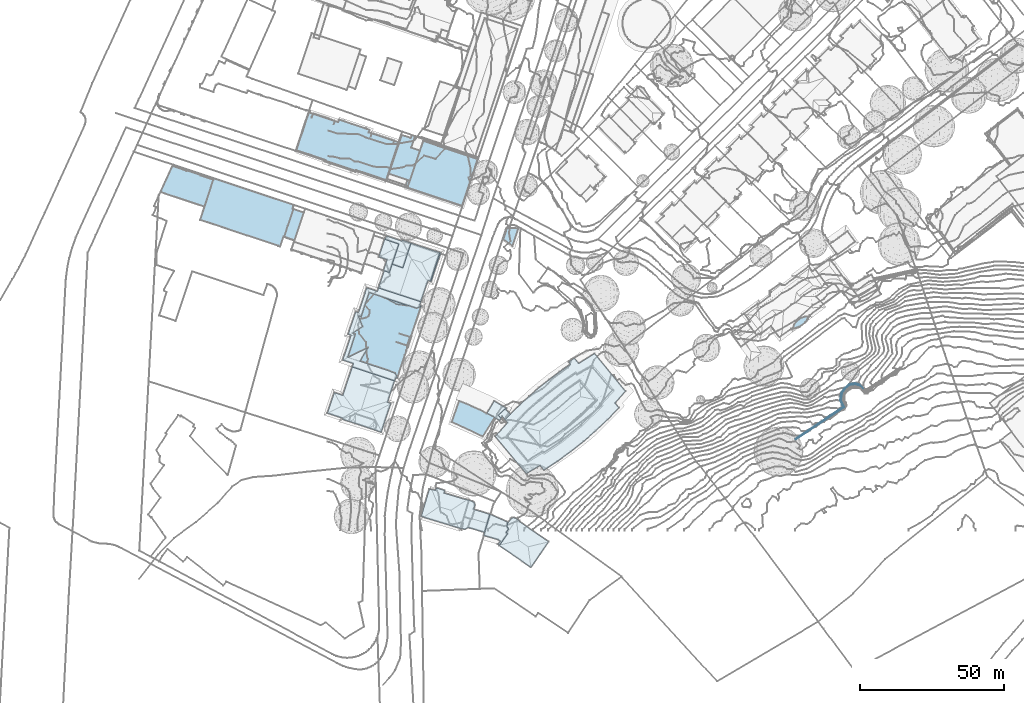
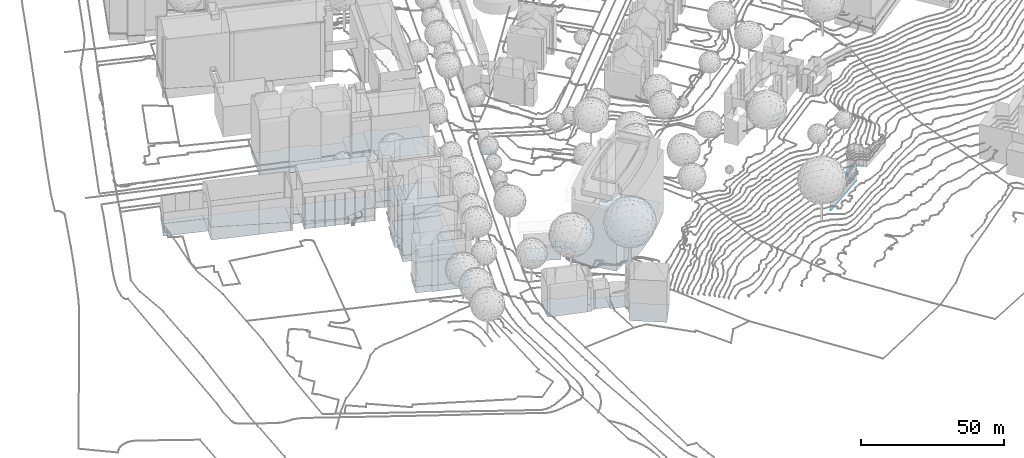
# Not in any storey, part 1 of 477: 12 footings.
"""IFC4 building model written with IfcOpenShell, lengths in metres."""

from ifc_helpers import new_model, si_unit, frame, origin_with_axes, place, context, subcontext, project, spatial, polygons, element, save


model = new_model("IFC4")

# Units and contexts
model_context = context("Model", 3, precision=1e-05, world=origin_with_axes())
body_context = subcontext(model_context, "Body", "Model", "MODEL_VIEW")
ifc_project = project(units=[si_unit("AREAUNIT", "SQUARE_METRE"), si_unit("LENGTHUNIT", "METRE")], contexts=[model_context])

# Sites, building
site_1_placement = place(None, origin_with_axes())
site_1 = spatial("IfcSite", under=ifc_project, at=site_1_placement, Name="Topoexport Site")
site_2_placement = place(site_1_placement, origin_with_axes())
site_2 = spatial("IfcSite", under=site_1, at=site_2_placement, Name="TPX_BUILDINGS")
building_1_placement = place(site_2_placement, frame((211.8297320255, 101.9383160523, 526.7541), z_axis=(0.0, 0.0, 1.0), x_axis=(1.0, 0.0, 0.0)))
building_1 = spatial("IfcBuilding", under=site_2, at=building_1_placement, Name="Building 18", CompositionType="ELEMENT")

# Footing
footing_1_placement = place(None, frame((211.8297320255, 101.9383160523, 526.7541), z_axis=(0.0, 0.0, 1.0), x_axis=(1.0, 0.0, 0.0)))
element("IfcFooting", 1, at=footing_1_placement, inside=building_1, Name="Floor 20", context=body_context, shape_type="Tessellation", body=[
    polygons([(-34.5759999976, -56.5976999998, -17.0633), (-33.9159999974, -55.2714999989, -17.0633), (-34.2349999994, -56.6416000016, -17.0633), (-34.2729999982, -58.0879000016, -17.0633), (-33.7829999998, -59.1513999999, -17.0634), (-34.0889999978, -59.3066999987, -17.0634), (-34.6169999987, -58.1572000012, -17.0633), (-50.118999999, -71.6132999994, -17.0633), (-50.3090000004, -71.3280999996, -17.0633), (-33.6050000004, -60.182599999, -17.0634), (-34.2329999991, -55.125, -17.0633), (-31.5610000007, -52.3574000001, -17.0633), (-31.4149999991, -52.6816999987, -17.0633), (-33.1439999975, -53.6620999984, -17.0633), (-32.8939999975, -53.9004000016, -17.0633), (-29.6919999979, -52.4120999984, -17.0633), (-33.1519999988, -60.2930000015, -17.0634), (-29.6769999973, -52.0634999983, -17.0633), (-27.7089999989, -52.5527999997, -17.0633), (-26.6359999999, -53.8544999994, -17.0634), (-27.8649999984, -52.8671999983, -17.0633)], [[[1, 2, 3]], [[4, 1, 3]], [[4, 5, 6]], [[4, 7, 1]], [[8, 9, 10]], [[7, 4, 6]], [[1, 11, 2]], [[12, 13, 14]], [[13, 15, 14]], [[13, 12, 16]], [[17, 10, 5]], [[17, 8, 10]], [[14, 15, 2]], [[10, 6, 5]], [[2, 11, 14]], [[18, 16, 12]], [[18, 19, 16]], [[19, 20, 21]], [[21, 16, 19]]]),
])

# Building
building_2_placement = place(site_2_placement, frame((160.7467320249, 68.8533160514, 524.6524), z_axis=(0.0, 0.0, 1.0), x_axis=(1.0, 0.0, 0.0)))
building_2 = spatial("IfcBuilding", under=site_2, at=building_2_placement, Name="Building 63", CompositionType="ELEMENT")

# Footing
footing_2_placement = place(None, frame((160.7467320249, 68.8533160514, 524.6524), z_axis=(0.0, 0.0, 1.0), x_axis=(1.0, 0.0, 0.0)))
element("IfcFooting", 2, at=footing_2_placement, inside=building_2, Name="Floor 0", context=body_context, shape_type="Tessellation", body=[
    polygons([(0.4470000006, 1.3037, 0.0), (1.9539999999, 0.4356000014, 0.0), (1.4880000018, 0.2734999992, 0.0), (2.2640000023, 0.572300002, 0.0), (1.2660000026, 0.2168000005, 0.0), (3.3210000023, 1.3672000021, 0.0), (1.1090000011, 2.3280999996, 0.0), (1.9740000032, 3.1563000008, 0.0), (0.0150000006, 0.1231000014, 0.0), (0.0340000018, 0.0234999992, 0.0), (0.0, 0.0, 0.0), (0.5250000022, 0.067400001, 0.0), (1.0109999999, 0.1504000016, 0.0), (3.0090000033, 3.7588, 0.0), (4.1750000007, 4.1114000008, 0.0), (4.9690000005, 3.0342000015, 0.0), (5.4050000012, 3.9717000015, 0.0), (5.2080000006, 3.4942000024, 0.0), (5.6660000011, 4.1621000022, 0.0), (5.4290000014, 4.2012000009, 0.0), (4.2740000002, 2.0780999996, 0.0), (4.694000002, 2.6006000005, 0.0), (4.382000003, 2.1905000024, 0.0)], [[[1, 2, 3]], [[4, 2, 1]], [[3, 5, 1]], [[6, 1, 7]], [[7, 8, 6]], [[9, 10, 11]], [[9, 1, 12]], [[9, 12, 10]], [[12, 1, 13]], [[5, 13, 1]], [[14, 15, 16]], [[15, 17, 18]], [[15, 18, 16]], [[19, 17, 20]], [[17, 15, 20]], [[6, 4, 1]], [[21, 6, 8]], [[22, 14, 16]], [[23, 21, 8]], [[8, 22, 23]], [[8, 14, 22]]]),
])

# Building
building_3_placement = place(site_2_placement, frame((60.2177320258, 99.807416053, 527.0553), z_axis=(0.0, 0.0, 1.0), x_axis=(1.0, 0.0, 0.0)))
building_3 = spatial("IfcBuilding", under=site_2, at=building_3_placement, Name="Building 132", CompositionType="ELEMENT")

# Footing
footing_3_placement = place(None, frame((60.2177320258, 99.807416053, 527.0553), z_axis=(0.0, 0.0, 1.0), x_axis=(1.0, 0.0, 0.0)))
element("IfcFooting", 3, at=footing_3_placement, inside=building_3, Name="Floor 0", context=body_context, shape_type="Tessellation", body=[
    polygons([(1.3100000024, 3.8682000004, 0.0), (3.2190000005, -2.3368999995, 0.0), (0.0, 0.0, 0.0), (5.2420000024, 3.8145000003, 0.0)], [[[1, 2, 3]], [[2, 1, 4]]]),
])

# Building
building_4_placement = place(site_2_placement, frame((54.4957320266, 39.4383160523, 525.2974), z_axis=(0.0, 0.0, 1.0), x_axis=(1.0, 0.0, 0.0)))
building_4 = spatial("IfcBuilding", under=site_2, at=building_4_placement, Name="Building 133", CompositionType="ELEMENT")

# Footing
footing_4_placement = place(None, frame((54.4957320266, 39.4383160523, 525.2974), z_axis=(0.0, 0.0, 1.0), x_axis=(1.0, 0.0, 0.0)))
element("IfcFooting", 4, at=footing_4_placement, inside=building_4, Name="Floor 0", context=body_context, shape_type="Tessellation", body=[
    polygons([(28.4890000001, 17.9638999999, -1.7479), (30.4200000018, 19.2245999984, -1.7479), (28.9499999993, 17.0243999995, -1.7479), (31.9250000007, 17.3418000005, -1.7479), (25.2219999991, 14.4345999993, -1.7479), (21.5870000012, 11.7157999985, -1.7479), (18.0500000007, 8.870099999, -1.7479), (7.2030000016, -3.2236000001, -1.7479), (11.3590000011, 2.8935000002, -1.7479), (14.6530000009, 5.9393999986, -1.7479), (6.2659999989, -2.1416000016, -1.7479), (8.1710000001, -0.2637000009, -1.7479), (44.5139999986, 3.6162, -1.7479), (48.1380000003, 7.754900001, -1.7479), (18.4660000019, -18.0859999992, -1.7479), (37.8350000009, -6.0117000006, -1.7479), (41.936999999, -2.1044999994, -1.7479), (45.8619999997, 1.9803999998, -1.7479), (33.5639999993, -9.7324000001, -1.7479), (13.7049999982, -20.9189999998, -1.7479), (2.9010000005, -7.9785000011, -1.7479), (24.5500000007, -16.5898999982, -1.7479), (29.1330000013, -13.2608000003, -1.7479), (19.824000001, -19.7129000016, -1.7479), (37.3819999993, 20.8027000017, -1.7479), (3.993999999, -0.6651000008, 0.0), (2.0130000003, -1.0263999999, 0.0), (2.5009999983, 4.2705000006, 0.0), (6.5139999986, 1.754900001, 0.0), (0.0, 0.0, 0.0), (3.1609999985, -1.7362999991, 0.0), (4.9389999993, -1.6484999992, 0.0), (6.8920000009, 1.7558000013, 0.0), (6.7509999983, 1.5088, 0.0), (4.4609999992, -2.4765999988, 0.0), (8.1710000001, -0.2637000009, -0.386), (5.2989999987, -1.0254000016, -0.386), (6.6140000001, 1.2694999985, -0.386), (6.7509999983, 1.5088, -0.386), (6.5139999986, 1.754900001, -0.386), (3.993999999, -0.6651000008, -0.386), (4.9389999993, -1.6484999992, -0.386), (6.2659999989, -2.1416000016, -0.386)], [[[1, 2, 3]], [[3, 4, 5]], [[3, 2, 4]], [[4, 6, 5]], [[4, 7, 6]], [[8, 9, 10]], [[10, 7, 8]], [[8, 11, 12]], [[12, 9, 8]], [[4, 8, 7]], [[13, 8, 4]], [[13, 4, 14]], [[13, 15, 8]], [[16, 13, 17]], [[13, 18, 17]], [[13, 16, 19]], [[20, 21, 8]], [[20, 8, 15]], [[22, 15, 23]], [[15, 22, 24]], [[19, 23, 15]], [[19, 15, 13]], [[4, 25, 14]], [[26, 27, 28]], [[28, 29, 26]], [[30, 28, 27]], [[27, 26, 31]], [[32, 31, 26]], [[33, 34, 29]], [[29, 28, 33]], [[35, 31, 32]], [[36, 37, 38]], [[39, 38, 40]], [[41, 40, 38]], [[41, 38, 37]], [[37, 42, 41]], [[37, 36, 43]]]),
])

# Building
building_5_placement = place(site_2_placement, frame((42.3237320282, 36.3992160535, 526.0533), z_axis=(0.0, 0.0, 1.0), x_axis=(1.0, 0.0, 0.0)))
building_5 = spatial("IfcBuilding", under=site_2, at=building_5_placement, Name="Building 134", CompositionType="ELEMENT")

# Footing
footing_5_placement = place(None, frame((42.3237320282, 36.3992160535, 526.0533), z_axis=(0.0, 0.0, 1.0), x_axis=(1.0, 0.0, 0.0)))
element("IfcFooting", 5, at=footing_5_placement, inside=building_5, Name="Floor 0", context=body_context, shape_type="Tessellation", body=[
    polygons([(14.1849999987, 2.0126999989, 0.0), (14.868999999, 1.566399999, 0.0), (10.7749999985, -5.0215000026, 0.0), (12.1569999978, 3.0136999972, 0.0), (12.1719999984, 3.0390999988, 0.0), (15.3329999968, 1.3027999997, 0.0), (0.0, 0.0, 0.0), (2.5649999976, 7.2802999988, 0.0), (4.9599999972, 6.3349999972, 0.0), (7.3279999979, 5.3222999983, 0.0), (9.6669999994, 4.2460999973, 0.0)], [[[1, 2, 3]], [[1, 4, 5]], [[1, 6, 2]], [[3, 4, 1]], [[7, 8, 9]], [[9, 10, 7]], [[4, 3, 11]], [[7, 10, 11]], [[3, 7, 11]]]),
])

# Building
building_6_placement = place(site_2_placement, frame((53.3647320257, -2.937683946, 525.6963), z_axis=(0.0, 0.0, 1.0), x_axis=(1.0, 0.0, 0.0)))
building_6 = spatial("IfcBuilding", under=site_2, at=building_6_placement, Name="Building 136", CompositionType="ELEMENT")

# Footing
footing_6_placement = place(None, frame((53.3647320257, -2.937683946, 525.6963), z_axis=(0.0, 0.0, 1.0), x_axis=(1.0, 0.0, 0.0)))
element("IfcFooting", 6, at=footing_6_placement, inside=building_6, Name="Floor 0", context=body_context, shape_type="Tessellation", body=[
    polygons([(12.4990000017, 4.7714999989, -4.7716), (9.5360000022, 5.8642999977, -4.7716), (9.7149999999, 5.9960999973, -4.7716), (9.4730000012, 5.7997999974, -4.7716), (10.0179999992, 6.1356999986, -4.7716), (10.3500000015, 6.1963, -4.7716), (10.6900000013, 6.1728999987, -4.7716), (11.4800000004, 5.7577999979, -4.7716), (9.3819999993, 5.7040999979, -4.7716), (8.5769999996, 4.5449000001, -4.7716), (8.3949999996, 4.4287, -4.7716), (8.4959999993, 4.5810999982, -4.7716), (8.2440000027, 4.1981999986, -4.7716), (8.6270000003, 2.25, -4.7716), (8.5040000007, 2.4384999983, -4.7716), (8.1359999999, 2.9970999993, -4.7716), (11.2070000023, 5.9481999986, -4.7716), (11.012000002, 6.0644999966, -4.7716), (22.5720000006, -2.1904000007, -4.7716), (12.4780000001, 5.056599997, -4.7716), (12.0179999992, 5.3798999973, -4.7716), (19.6229999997, -6.4560000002, -4.7716), (7.7939999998, 1.0429999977, -4.7716), (8.3370000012, 0.6679999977, -4.7716), (13.6520000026, -9.1904000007, -4.7716), (5.4450000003, -3.5175999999, -4.7716), (16.4140000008, -11.0986000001, -4.7716), (8.2440000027, 4.1981999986, 0.0), (8.1359999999, 2.9970999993, 0.0), (5.0030000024, -1.4550999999, 0.0), (7.7939999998, 1.0429999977, 0.0), (8.5020000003, 2.441399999, 0.0), (8.6270000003, 2.25, 0.0), (2.370000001, 7.3007999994, 0.0), (2.7380000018, 7.1503999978, 0.0), (1.2569999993, 4.2509999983, 0.0), (8.3949999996, 4.4287, 0.0), (8.4959999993, 4.5810999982, 0.0), (2.1850000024, 7.3710999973, 0.0), (8.3370000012, 0.6679999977, 0.0), (5.7430000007, -1.9736000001, 0.0), (5.626000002, -3.255900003, 0.0), (0.313000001, 1.0497999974, 0.0), (0.1449999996, -0.0439000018, 0.0), (4.9790000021, -3.063500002, 0.0), (0.0, 0.0, 0.0)], [[[1, 2, 3]], [[1, 4, 2]], [[3, 5, 1]], [[6, 7, 8]], [[1, 5, 6]], [[4, 1, 9]], [[10, 11, 12]], [[11, 10, 13]], [[14, 15, 13]], [[10, 9, 1]], [[16, 13, 15]], [[10, 14, 13]], [[17, 7, 18]], [[19, 10, 1]], [[8, 1, 6]], [[17, 8, 7]], [[20, 1, 21]], [[14, 10, 19]], [[1, 8, 21]], [[14, 19, 22]], [[23, 14, 24]], [[25, 26, 24]], [[24, 22, 25]], [[22, 27, 25]], [[24, 14, 22]], [[28, 29, 30]], [[31, 29, 32]], [[31, 32, 33]], [[34, 35, 36]], [[37, 28, 35]], [[35, 38, 37]], [[28, 30, 35]], [[34, 36, 39]], [[30, 29, 31]], [[40, 41, 31]], [[40, 42, 41]], [[30, 43, 36]], [[30, 36, 35]], [[30, 44, 43]], [[41, 42, 45]], [[46, 43, 44]], [[41, 30, 31]]]),
])

# Building
building_7_placement = place(site_2_placement, frame((31.7207320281, 3.7234160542, 525.7003), z_axis=(0.0, 0.0, 1.0), x_axis=(1.0, 0.0, 0.0)))
building_7 = spatial("IfcBuilding", under=site_2, at=building_7_placement, Name="Building 137", CompositionType="ELEMENT")

# Footing
footing_7_placement = place(None, frame((31.7207320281, 3.7234160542, 525.7003), z_axis=(0.0, 0.0, 1.0), x_axis=(1.0, 0.0, 0.0)))
element("IfcFooting", 7, at=footing_7_placement, inside=building_7, Name="Floor 0", context=body_context, shape_type="Tessellation", body=[
    polygons([(3.8589999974, 9.3095999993, 0.0), (4.8939999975, 8.9941999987, 0.0), (3.818, 9.1747999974, 0.0), (0.0, 0.0, 0.0), (3.6419999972, 9.2285999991, 0.0), (2.8209999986, 9.4785999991, 0.0), (7.943, 8.0527999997, 0.0), (8.2159999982, 8.9550999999, 0.0), (5.1600000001, 9.8642999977, 0.0), (0.8969999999, -0.2744000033, 0.0), (15.1849999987, 5.8632999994, 0.0), (12.8990000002, -4.0312000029, 0.0), (0.867999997, -0.371100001, 0.0), (18.1999999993, 2.3964999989, 0.0), (13.7099999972, -4.1484000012, 0.0), (13.6739999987, -4.2675000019, 0.0), (15.0709999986, -4.5537, 0.0), (16.3029999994, -3.9492000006, 0.0), (16.5989999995, 5.5585999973, 0.0), (18.0319999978, 5.0673999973, 0.0), (18.2829999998, 4.8544999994, 0.0), (17.7369999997, 5.2109999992, 0.0), (18.6209999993, 4.0683999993, 0.0), (18.4159999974, 4.6816999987, 0.0), (18.557, 4.3876999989, 0.0), (18.618999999, 3.8515999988, 0.0), (18.5799999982, 3.6386999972, 0.0), (18.5359999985, 2.2949999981, 0.0), (16.992999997, -4.0918000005, -0.004), (16.930999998, -4.1259000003, -0.004), (23.8279999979, 0.7079999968, -0.004), (22.9009999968, -2.4101000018, -0.004), (21.9459999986, -5.6191000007, -0.004), (15.2199999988, 5.9785999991, 0.0)], [[[1, 2, 3]], [[3, 2, 4]], [[3, 4, 5]], [[5, 4, 6]], [[7, 2, 8]], [[2, 7, 4]], [[2, 9, 8]], [[10, 4, 7]], [[7, 11, 10]], [[10, 12, 13]], [[10, 11, 12]], [[11, 14, 12]], [[12, 15, 16]], [[17, 15, 18]], [[15, 12, 18]], [[11, 19, 14]], [[20, 21, 22]], [[22, 23, 19]], [[24, 22, 21]], [[23, 22, 25]], [[26, 27, 19]], [[23, 26, 19]], [[24, 25, 22]], [[19, 27, 14]], [[18, 28, 29]], [[12, 14, 18]], [[30, 18, 29]], [[18, 14, 28]], [[31, 32, 28]], [[29, 32, 33]], [[29, 28, 32]], [[34, 19, 11]]]),
])

# Building
building_8_placement = place(site_2_placement, frame((-11.7152679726, 130.4334160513, 524.4966), z_axis=(0.0, 0.0, 1.0), x_axis=(1.0, 0.0, 0.0)))
building_8 = spatial("IfcBuilding", under=site_2, at=building_8_placement, Name="Building 145", CompositionType="ELEMENT")

# Footing
footing_8_placement = place(None, frame((-11.7152679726, 130.4334160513, 524.4966), z_axis=(0.0, 0.0, 1.0), x_axis=(1.0, 0.0, 0.0)))
element("IfcFooting", 8, at=footing_8_placement, inside=building_8, Name="Floor 0", context=body_context, shape_type="Tessellation", body=[
    polygons([(31.3609999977, -10.4316000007, 0.0), (30.8640000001, -10.2665999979, 0.0), (30.9609999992, -9.9726999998, 0.0), (20.8929999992, -6.623999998, 0.0), (32.0379999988, -8.4091999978, 0.0), (26.3079999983, 6.1357000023, 0.0), (18.4509999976, -6.4442999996, 0.0), (12.4450000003, -4.4452999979, 0.0), (23.3889999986, 8.0645000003, 0.0), (25.243999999, 6.4902000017, 0.0), (19.4820000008, -6.7870999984, 0.0), (20.7039999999, -7.1933999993, 0.0), (14.6499999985, 10.0137000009, 0.0), (17.2430000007, 10.1338, 0.0), (34.0810000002, 3.5381000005, 0.0), (35.3229999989, 1.4081999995, 0.0), (35.5949999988, 3.0322000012, 0.0), (35.930999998, 4.0507999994, 0.0), (36.1789999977, 3.9678000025, 0.0), (24.3420000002, 7.7432000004, 0.0), (25.5289999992, 7.3447000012, 0.0), (16.3709999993, 10.4277000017, 0.0), (11.5, -4.1317999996, 0.0), (10.307, -3.1024999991, 0.0), (10.1180000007, -3.6719000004, 0.0), (10.2540000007, -3.0858999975, 0.0), (10.3200000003, 11.4570000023, 0.0), (6.1860000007, -1.7313999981, 0.0), (0.2760000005, 0.2344000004, 0.0), (0.1739999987, -0.057599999, 0.0), (0.0, 0.0, 0.0), (0.6959999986, 2.0800999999, 0.0), (14.9479999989, 10.9063000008, 0.0), (14.8519999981, 10.6201000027, 0.0), (4.675999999, 13.3388999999, 0.0), (3.756000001, 11.2226999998, 0.0), (3.9809999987, 11.8965000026, 0.0), (4.5089999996, 13.4766000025, 0.0), (4.7069999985, 13.4316000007, 0.0), (4.6490000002, 13.8965000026, 0.0), (4.8399999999, 13.8320000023, 0.0), (2.3990000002, 7.1709000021, 0.0), (0.8719999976, 2.6074000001, 0.0)], [[[1, 2, 3]], [[3, 4, 5]], [[5, 1, 3]], [[5, 4, 6]], [[7, 8, 9]], [[7, 10, 4]], [[11, 4, 12]], [[11, 7, 4]], [[13, 14, 8]], [[6, 15, 16]], [[5, 6, 16]], [[15, 17, 16]], [[17, 18, 19]], [[19, 16, 17]], [[4, 10, 6]], [[10, 20, 21]], [[10, 9, 20]], [[8, 14, 9]], [[9, 10, 7]], [[22, 14, 13]], [[8, 23, 24]], [[23, 25, 24]], [[26, 27, 24]], [[26, 28, 27]], [[27, 13, 24]], [[29, 27, 28]], [[13, 8, 24]], [[30, 31, 29]], [[31, 32, 29]], [[32, 27, 29]], [[33, 22, 34]], [[13, 34, 22]], [[35, 36, 37]], [[37, 38, 35]], [[39, 40, 41]], [[40, 39, 38]], [[35, 38, 39]], [[27, 36, 35]], [[36, 27, 42]], [[32, 43, 27]], [[43, 42, 27]]]),
])

# Building
building_9_placement = place(site_2_placement, frame((19.7027320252, 120.1717160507, 524.8305), z_axis=(0.0, 0.0, 1.0), x_axis=(1.0, 0.0, 0.0)))
building_9 = spatial("IfcBuilding", under=site_2, at=building_9_placement, Name="Building 148", CompositionType="ELEMENT")

# Footing
footing_9_placement = place(None, frame((19.7027320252, 120.1717160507, 524.8305), z_axis=(0.0, 0.0, 1.0), x_axis=(1.0, 0.0, 0.0)))
element("IfcFooting", 9, at=footing_9_placement, inside=building_9, Name="Floor 0", context=body_context, shape_type="Tessellation", body=[
    polygons([(12.9979999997, 14.5928000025, 0.0001), (12.0890000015, 14.8545000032, 0.0001), (12.1020000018, 14.8925999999, 0.0001), (11.5980000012, 10.4101000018, 0.0), (10.6570000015, 15.1513000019, 0.0001), (12.7290000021, 13.7920000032, 0.0001), (8.4350000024, 14.7881000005, 0.0001), (9.9160000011, 15.3994000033, 0.0001), (8.7740000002, 15.8027000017, 0.0001), (10.7140000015, 15.3154000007, 0.0001), (7.2390000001, 0.2246000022, 0.0), (0.7960000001, 2.3818000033, 0.0), (8.0940000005, -0.0605999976, 0.0), (6.6290000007, -1.5937999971, 0.0), (0.3020000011, 0.5117000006, 0.0), (5.3000000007, 15.8369000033, 0.0001), (0.1190000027, -0.0400999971, 0.0), (0.0, 0.0, 0.0), (30.2420000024, 2.8574000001, 0.696), (29.307, 0.0556000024, 0.696), (17.9890000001, 12.0303000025, 0.696), (29.1090000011, -0.5351999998, 0.696), (8.0940000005, -0.0605999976, 0.696), (27.6650000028, -4.8622999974, 0.6959), (30.5040000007, 3.6406000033, 0.696), (31.6280000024, 7.4668000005, 0.696), (31.7660000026, 7.4209000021, 0.696), (26.3020000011, -8.9433999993, 0.6959), (6.6390000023, -2.3993999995, 0.696), (6.8770000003, -1.6767999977, 0.696), (6.6290000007, -1.5946999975, 0.696), (7.2390000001, 0.2246000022, 0.696), (12.9979999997, 14.5928000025, 0.696), (18.2590000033, 12.8330000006, 0.696), (12.7290000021, 13.7920000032, 0.696), (11.5980000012, 10.4101000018, 0.696)], [[[1, 2, 3]], [[2, 4, 5]], [[2, 1, 6]], [[7, 8, 5]], [[7, 5, 4]], [[7, 9, 8]], [[2, 5, 10]], [[2, 6, 4]], [[7, 11, 12]], [[4, 13, 11]], [[14, 15, 11]], [[12, 16, 7]], [[17, 18, 15]], [[18, 12, 15]], [[15, 12, 11]], [[7, 4, 11]], [[19, 20, 21]], [[20, 22, 23]], [[23, 22, 24]], [[25, 26, 27]], [[21, 25, 19]], [[21, 26, 25]], [[28, 23, 24]], [[29, 30, 23]], [[31, 32, 30]], [[32, 23, 30]], [[33, 34, 21]], [[21, 35, 33]], [[35, 21, 36]], [[36, 21, 23]], [[23, 21, 20]], [[28, 29, 23]]]),
])

# Building
building_10_placement = place(site_2_placement, frame((-58.7722679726, 116.2176160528, 523.7797), z_axis=(0.0, 0.0, 1.0), x_axis=(1.0, 0.0, 0.0)))
building_10 = spatial("IfcBuilding", under=site_2, at=building_10_placement, Name="Building 162", CompositionType="ELEMENT")

# Footing
footing_10_placement = place(None, frame((-58.7722679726, 116.2176160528, 523.7797), z_axis=(0.0, 0.0, 1.0), x_axis=(1.0, 0.0, 0.0)))
element("IfcFooting", 10, at=footing_10_placement, inside=building_10, Name="Floor 0", context=body_context, shape_type="Tessellation", body=[
    polygons([(70.745000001, -24.8584000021, -0.519), (67.5989999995, -11.5800999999, -0.519), (74.4210000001, -13.8662, -0.519), (60.7969999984, -9.313500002, -0.519), (60.4169999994, -9.1865000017, -0.519), (70.5830000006, -25.378899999, -0.519), (46.370000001, -17.2959000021, -0.519), (63.824000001, -10.3233000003, -0.519), (67.2199999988, -11.4541000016, -0.519), (64.2029999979, -10.4492000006, -0.519), (50.2129999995, -5.7881000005, -0.519), (50.6559999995, -5.9345999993, -0.519), (53.6339999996, -6.9268000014, -0.519), (57.7249999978, -8.2910000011, -0.519), (54.0139999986, -7.0537, -0.519), (49.7190000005, -7.1035000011, -0.373), (49.7540000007, -6.9981000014, -0.373), (49.8029999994, -7.0137000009, -0.373), (46.5449999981, -16.7705000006, -0.373), (44.2179999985, -11.7217000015, -0.373), (46.1549999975, -5.9189999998, -0.373), (43.873999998, -15.8779000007, -0.373), (42.9349999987, -15.5645000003, -0.373), (70.745000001, -24.8584000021, 2.1637), (75.7329999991, -22.4776000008, 2.1637), (74.4639999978, -26.0967000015, 2.1637), (74.4389999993, -26.2001999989, 2.1637), (77.362999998, -27.1797000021, 2.1637), (74.0280000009, -15.0419999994, 2.1637), (77.7799999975, -16.3203000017, 2.1637), (78.6090000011, -23.432599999, 2.1637), (48.9179999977, -21.0703000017, -0.71), (45.9389999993, -20.0791000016, -0.71), (46.370000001, -17.2959000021, -0.71), (49.2980000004, -21.1963, -0.71), (45.555999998, -19.9618999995, -0.71), (45.8350000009, -20.3916000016, -0.71), (45.4869999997, -19.938500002, -0.71), (52.7139999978, -22.3339999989, -0.71), (52.3339999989, -22.2070000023, -0.71), (49.1939999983, -21.5088, -0.71), (52.6090000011, -22.6455000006, -0.71), (55.7229999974, -23.3330000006, -0.71), (56.1019999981, -23.4589999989, -0.71), (45.4549999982, -20.2646999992, -0.71), (52.2300000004, -22.5195000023, -0.71), (48.8139999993, -21.3828000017, -0.71), (55.9969999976, -23.7725000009, -0.71), (55.6180000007, -23.6464999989, -0.71), (62.5150000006, -25.5956999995, -0.71), (62.8939999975, -25.7217000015, -0.71), (62.7899999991, -26.0351999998, -0.71), (70.5830000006, -25.378899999, -0.71), (59.1180000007, -24.4649000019, -0.71), (59.487999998, -24.5879000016, -0.71), (59.3839999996, -24.9004000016, -0.71), (69.699000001, -27.9970999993, -0.71), (69.3189999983, -27.8612999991, -0.71), (66.2909999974, -26.8526000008, -0.71), (65.9210000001, -26.7294999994, -0.71), (66.186999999, -27.1660000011, -0.71), (69.2149999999, -28.1737999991, -0.71), (59.0139999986, -24.7783000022, -0.71), (65.8169999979, -27.0430000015, -0.71), (62.4109999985, -25.9092000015, -0.71), (69.5979999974, -28.3007999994, -0.71), (18.4210000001, 4.254900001, -0.5939), (16.1719999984, -2.3603999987, -0.5939), (18.3409999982, 4.2822000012, -0.5939), (23.2190000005, -12.7969000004, -0.594), (15.1970000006, -5.3427999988, -0.5939), (34.182, -0.4600000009, -0.594), (18.5789999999, 4.7294999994, -0.5939), (44.2179999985, -11.7217000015, -0.594), (30.1099999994, -15.0419999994, -0.594), (13.7929999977, -9.6533000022, -0.5939), (30.0969999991, -15.0918000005, -0.594), (46.2009999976, -4.8467000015, -0.594), (46.1349999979, -4.8251999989, -0.594), (46.318, -4.496100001, -0.594), (45.8099999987, -5.8037, -0.594), (46.1549999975, -5.9189999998, -0.594), (42.9349999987, -15.5645000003, -0.594), (42.7009999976, -15.4873000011, -0.594), (40.8000000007, -18.6152999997, -0.594), (41.5520000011, -18.9356000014, -0.594), (40.7829999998, -18.6816999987, -0.594), (8.9079999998, -2.9873000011, 0.0), (16.1719999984, -2.3603999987, 0.0), (15.2699999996, -5.120099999, 0.0), (13.9890000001, 5.7285000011, 0.0), (0.0, 0.0, 0.0), (18.3409999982, 4.2822000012, 0.0), (9.1999999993, 7.4589999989, 0.0), (14.0299999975, 5.8515000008, 0.0), (9.1589999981, 7.3348999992, 0.0), (4.3350000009, 8.9393999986, 0.0), (4.2839999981, 9.3436999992, 0.0), (4.4509999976, 9.2881000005, 0.0)], [[[1, 2, 3]], [[4, 1, 5]], [[6, 7, 1]], [[1, 4, 8]], [[2, 1, 9]], [[9, 1, 10]], [[8, 10, 1]], [[11, 12, 7]], [[13, 7, 12]], [[5, 7, 14]], [[15, 7, 13]], [[15, 14, 7]], [[5, 1, 7]], [[16, 17, 18]], [[18, 19, 16]], [[20, 21, 16]], [[20, 16, 22]], [[20, 22, 23]], [[16, 19, 22]], [[24, 25, 26]], [[27, 26, 28]], [[25, 28, 26]], [[29, 30, 25]], [[25, 24, 29]], [[31, 28, 25]], [[32, 33, 34]], [[34, 35, 32]], [[36, 33, 37]], [[33, 38, 34]], [[33, 36, 38]], [[39, 40, 34]], [[35, 34, 40]], [[35, 41, 32]], [[39, 42, 40]], [[43, 39, 34]], [[44, 43, 34]], [[45, 36, 37]], [[40, 42, 46]], [[47, 32, 41]], [[48, 49, 43]], [[44, 48, 43]], [[50, 51, 52]], [[51, 50, 53]], [[54, 55, 56]], [[54, 53, 55]], [[50, 55, 53]], [[53, 57, 58]], [[58, 59, 53]], [[60, 59, 61]], [[60, 53, 59]], [[60, 51, 53]], [[34, 54, 44]], [[62, 58, 57]], [[63, 54, 56]], [[60, 61, 64]], [[65, 50, 52]], [[66, 62, 57]], [[34, 53, 54]], [[67, 68, 69]], [[68, 70, 71]], [[68, 67, 72]], [[72, 70, 68]], [[67, 73, 72]], [[74, 75, 70]], [[76, 71, 70]], [[75, 77, 70]], [[70, 72, 74]], [[78, 79, 80]], [[81, 72, 79]], [[72, 80, 79]], [[72, 81, 74]], [[74, 81, 82]], [[74, 83, 84]], [[74, 84, 75]], [[84, 85, 75]], [[86, 87, 85]], [[85, 84, 86]], [[88, 89, 90]], [[91, 89, 92]], [[93, 89, 91]], [[91, 94, 95]], [[94, 91, 96]], [[88, 92, 89]], [[91, 92, 96]], [[92, 97, 96]], [[92, 98, 97]], [[97, 98, 99]]]),
])

# Building
building_11_placement = place(site_2_placement, frame((6.2087320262, 58.8602160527, 526.0234), z_axis=(0.0, 0.0, 1.0), x_axis=(1.0, 0.0, 0.0)))
building_11 = spatial("IfcBuilding", under=site_2, at=building_11_placement, Name="Building 163", CompositionType="ELEMENT")

# Footings
footing_11_placement = place(None, frame((6.2087320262, 58.8602160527, 526.0234), z_axis=(0.0, 0.0, 1.0), x_axis=(1.0, 0.0, 0.0)))
element("IfcFooting", 11, at=footing_11_placement, inside=building_11, Name="Floor 0", context=body_context, shape_type="Tessellation", body=[
    polygons([(23.5879999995, 11.9813999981, 0.0), (23.9919999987, 17.0458999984, 0.0), (25.5760000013, 17.8574000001, 0.0), (22.2050000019, 7.3574000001, 0.0), (20.8520000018, 3.2938999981, 0.0), (22.0419999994, 7.4111000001, 0.0), (20.6909999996, 3.3475999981, 0.0), (7.0269999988, 3.4169999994, 0.0), (5.2030000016, 10.7382000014, 0.0), (15.5450000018, 19.7762999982, 0.0), (7.438000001, 22.5135999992, 0.0), (4.6649999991, 14.121100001, 0.0), (3.6620000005, 14.4540999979, 0.0), (20.3720000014, 2.3885999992, 0.0), (19.8599999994, 0.6933000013, 0.0), (19.813000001, 0.7098999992, 0.0), (20.4189999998, 2.3720000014, 0.0), (17.8559999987, -5.322300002, 0.0), (16.5540000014, -5.4688000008, 0.0), (17.8090000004, -5.3066999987, 0.0), (17.2919999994, -7.0175999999, 0.0), (12.0729999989, -3.9052999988, 0.0), (2.6490000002, 8.0155999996, 0.0), (1.6449999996, 8.3486000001, 0.0), (0.0, 0.0, 0.0), (8.0500000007, -2.5713, 0.0), (4.3040000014, -1.2989000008, 0.0)], [[[1, 2, 3]], [[4, 5, 6]], [[7, 8, 9]], [[6, 5, 7]], [[10, 2, 1]], [[11, 10, 12]], [[1, 12, 10]], [[9, 12, 6]], [[6, 7, 9]], [[12, 9, 13]], [[12, 1, 6]], [[14, 8, 7]], [[15, 16, 17]], [[8, 14, 16]], [[18, 19, 20]], [[21, 19, 18]], [[16, 20, 19]], [[16, 22, 8]], [[9, 23, 24]], [[8, 25, 23]], [[22, 26, 8]], [[8, 23, 9]], [[27, 8, 26]], [[22, 16, 19]], [[16, 14, 17]]]),
])
footing_12_placement = place(None, frame((6.2087320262, 58.8602160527, 526.0234), z_axis=(0.0, 0.0, 1.0), x_axis=(1.0, 0.0, 0.0)))
element("IfcFooting", 12, at=footing_12_placement, inside=building_11, Name="Floor 1", context=body_context, shape_type="Tessellation", body=[
    polygons([(25.5760000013, 17.8574000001, 0.149), (25.4120000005, 17.375, 0.149), (24.7890000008, 17.4540999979, 0.149), (3.7030000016, 15.5428999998, 0.0), (3.7670000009, 15.7353000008, 0.0), (4.6649999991, 14.121100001, 0.0), (3.6620000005, 14.4540999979, 0.0), (2.7419999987, 15.8612999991, 0.0), (2.8909999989, 15.8125, 0.0), (5.2030000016, 10.7382000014, 0.0), (1.6449999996, 8.3486000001, 0.0), (3.9690000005, 16.3418000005, 0.0), (4.0159999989, 16.3251999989, 0.0), (5.9589999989, 22.3319999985, 0.0), (6.5749999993, 24.1816000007, 0.0), (6.006000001, 22.3154000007, 0.0), (7.438000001, 22.5135999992, 0.0), (0.4409999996, 7.9510999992, 0.0), (0.1440000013, 8.0507000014, 0.0), (-1.1559999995, 0.9257000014, 0.0), (-1.1079999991, 0.9090999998, 0.0), (-1.7630000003, -0.9013999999, 0.0), (0.8469999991, 6.9521000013, 0.0), (1.1059999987, 7.7313999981, 0.0), (0.8949999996, 6.936499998, 0.0), (2.6490000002, 8.0155999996, 0.0), (0.0, 0.0, 0.0), (10.2760000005, 22.9521000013, 0.0), (10.6730000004, 24.1484000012, 0.0), (15.5450000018, 19.7762999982, 0.0), (25.0179999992, 18.0819999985, 0.0), (23.9919999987, 17.0458999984, 0.0), (25.4169999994, 19.2793000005, 0.0), (25.5870000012, 17.8915999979, 0.0), (25.5760000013, 17.8574000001, 0.0), (4.3040000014, -1.2989000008, 0.0), (1.938000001, -2.1319000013, 0.0), (1.550999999, -3.2969000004, 0.0), (8.0500000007, -2.5713, 0.0), (7.0269999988, 3.4169999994, 0.0), (12.0729999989, -3.9052999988, 0.0), (16.2789999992, -8.1601999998, 0.0), (16.5540000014, -5.4688000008, 0.0), (16.6739999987, -6.9747000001, 0.0), (17.2430000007, -7.1640999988, 0.0), (17.2919999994, -7.0175999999, 0.0), (30.3770000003, 36.9668000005, 0.149), (30.8610000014, 36.8055999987, 0.149), (30.3610000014, 36.9199000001, 0.149), (27.8790000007, 26.6717999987, 0.149), (31.9759999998, 36.4354999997, 0.149), (28.6790000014, 26.4052000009, 0.149), (20.7239999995, 35.9316000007, 0.149), (21.9670000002, 39.7127999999, 0.149), (15.3839999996, 32.3563999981, 0.149), (19.1429999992, 31.121100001, 0.149), (14.4270000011, 29.4912, 0.149), (27.4039999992, 25.4032999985, 0.149), (27.4510000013, 25.3876999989, 0.149), (25.6339999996, 19.9316000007, 0.149), (25.4169999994, 19.2793000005, 0.149), (25.5870000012, 19.9472000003, 0.149), (10.6730000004, 24.1484000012, 0.149), (12.6460000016, 30.0839000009, 0.149), (16.9910000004, 18.4530999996, 0.149), (13.0729999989, 20.6112999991, 0.149), (15.5450000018, 19.7762999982, 0.149), (21.3740000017, 17.8915999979, 0.149), (31.6950000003, 34.2978000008, 0.167), (31.6480000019, 34.3134000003, 0.167), (32.368999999, 36.3046000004, 0.167), (31.9759999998, 36.4354999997, 0.167), (29.0460000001, 26.4111000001, 0.167), (29.6290000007, 28.3037, 0.167), (29.675999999, 28.2870999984, 0.167), (28.6790000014, 26.4052000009, 0.167), (29.0069999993, 26.2967999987, 0.167), (-1.0119999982, -21.7675999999, -0.29), (-1.7609999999, -21.5186000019, -0.29), (-1.680999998, -21.1552999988, -0.29), (0.2109999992, -22.1220999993, -0.29), (0.1950000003, -22.1700000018, -0.29), (-1.7980000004, -21.5069000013, -0.29), (-1.7210000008, -13.1387000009, -0.29), (0.3980000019, -22.1845999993, -0.285), (0.4750000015, -22.2109999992, -0.285), (2.625, -22.9248000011, -0.285), (13.2459999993, -20.9501999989, -0.29), (7.1449999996, -24.4268000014, -0.285), (7.1799999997, -24.438500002, -0.285), (9.6570000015, -25.313500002, -0.29), (9.6730000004, -25.2666999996, -0.29), (11.629999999, -25.9688000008, -0.29), (2.5879999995, -22.9122000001, -0.285), (9.5190000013, -25.2159000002, -0.285), (12.2459999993, -23.9589999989, -0.29), (12.2930000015, -23.9756000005, -0.29), (-7.0720000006, -19.3643000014, -0.29), (-4.6679999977, -12.1581999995, -0.29), (13.8099999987, -15.572300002, -0.29), (1.550999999, -3.2969000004, -0.29), (8.7470000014, -5.6719000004, -0.29), (-1.6459999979, -12.9131000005, -0.29), (16.1970000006, -8.2481000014, -0.29), (14.194000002, -14.2657000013, -0.29), (16.2789999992, -8.1601999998, -0.29), (14.2459999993, -17.942400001, -0.29), (14.936999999, -16.0245000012, -0.29), (14.2930000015, -17.9580000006, -0.29), (14.2410000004, -14.2813000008, -0.29), (14.9600000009, -15.9541999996, -0.29), (16.243999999, -8.2646999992, -0.29), (17.7219999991, 39.3603000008, -0.08), (13.6280000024, 33.9248000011, -0.08), (12.7989999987, 41.0370999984, -0.08), (14.4270000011, 29.4912, -0.08), (10.7520000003, 34.8797999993, -0.08), (12.6460000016, 30.0839000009, -0.08), (12.3850000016, 30.1845000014, -0.08), (12.9609999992, 41.5243999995, 0.078), (13.1550000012, 41.4609000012, 0.078), (12.7989999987, 41.0370999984, 0.078), (17.7219999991, 39.3603000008, 0.078), (20.8920000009, 40.0692999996, 0.078), (19.1429999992, 31.121100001, 0.078), (15.3839999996, 32.3563999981, 0.078), (13.4000000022, 42.1972000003, 0.078), (18.7989999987, 40.4023000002, 0.078), (21.9670000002, 39.7127999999, 0.078), (18.9230000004, 40.7762999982, 0.078), (20.9079999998, 40.1162, 0.078)], [[[1, 2, 3]], [[4, 5, 6]], [[7, 8, 9]], [[10, 11, 8]], [[12, 13, 5]], [[14, 15, 16]], [[6, 5, 13]], [[17, 13, 16]], [[7, 9, 4]], [[8, 18, 19]], [[20, 21, 22]], [[23, 24, 25]], [[26, 25, 24]], [[24, 18, 11]], [[25, 26, 21]], [[21, 27, 22]], [[11, 26, 24]], [[11, 18, 8]], [[15, 17, 16]], [[28, 17, 15]], [[29, 30, 28]], [[13, 17, 6]], [[8, 7, 10]], [[4, 6, 7]], [[30, 17, 28]], [[31, 32, 33]], [[34, 35, 31]], [[32, 30, 33]], [[31, 35, 32]], [[30, 29, 33]], [[27, 21, 26]], [[27, 36, 37]], [[37, 36, 38]], [[22, 27, 37]], [[39, 38, 36]], [[36, 27, 40]], [[39, 41, 42]], [[41, 43, 42]], [[42, 43, 44]], [[45, 44, 46]], [[43, 46, 44]], [[42, 38, 39]], [[47, 48, 49]], [[50, 48, 51]], [[51, 52, 50]], [[48, 50, 49]], [[49, 53, 54]], [[49, 50, 53]], [[55, 56, 57]], [[56, 53, 50]], [[50, 58, 56]], [[59, 58, 50]], [[60, 61, 62]], [[57, 63, 64]], [[63, 57, 62]], [[62, 61, 63]], [[56, 62, 57]], [[62, 56, 58]], [[65, 66, 67]], [[67, 68, 65]], [[69, 70, 71]], [[70, 72, 71]], [[73, 74, 75]], [[76, 74, 77]], [[76, 72, 74]], [[72, 70, 74]], [[73, 77, 74]], [[78, 79, 80]], [[78, 81, 82]], [[81, 78, 80]], [[83, 80, 79]], [[80, 84, 81]], [[81, 84, 85]], [[85, 84, 86]], [[87, 88, 89]], [[90, 89, 88]], [[91, 92, 93]], [[94, 86, 84]], [[92, 95, 96]], [[96, 97, 93]], [[96, 93, 92]], [[95, 90, 96]], [[94, 84, 87]], [[84, 80, 98]], [[99, 84, 98]], [[87, 84, 100]], [[101, 102, 103]], [[103, 102, 100]], [[104, 105, 102]], [[106, 104, 102]], [[103, 100, 84]], [[105, 100, 102]], [[100, 107, 88]], [[90, 88, 96]], [[107, 100, 108]], [[107, 108, 109]], [[100, 88, 87]], [[110, 100, 105]], [[111, 108, 100]], [[104, 106, 112]], [[113, 114, 115]], [[113, 116, 114]], [[114, 117, 115]], [[114, 118, 119]], [[114, 116, 118]], [[120, 121, 122]], [[121, 123, 122]], [[123, 124, 125]], [[125, 126, 123]], [[127, 123, 121]], [[123, 127, 128]], [[129, 125, 124]], [[130, 124, 128]], [[131, 124, 130]], [[123, 128, 124]]]),
])

save(model, "model.ifc")
